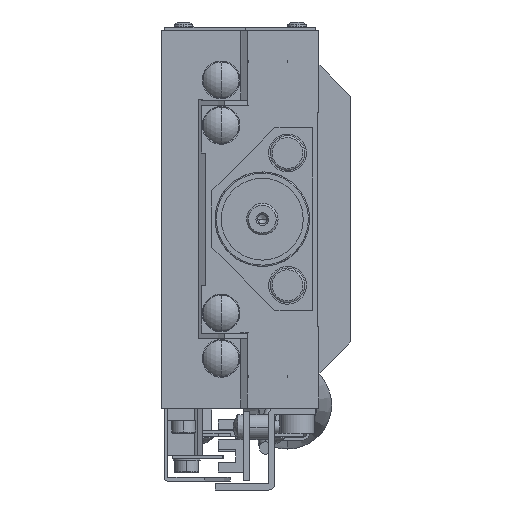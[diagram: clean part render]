
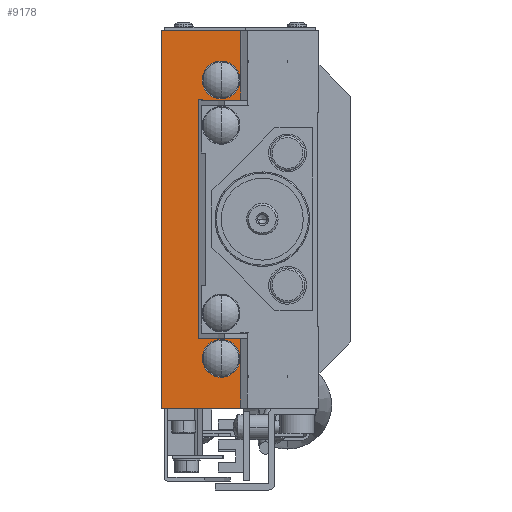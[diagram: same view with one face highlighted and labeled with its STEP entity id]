
A CAD part, left-side view. The second image highlights one B-rep face of the part: STEP entity #9178.
In plain terms, the highlighted planar face has unit normal (-1, 0, 0).
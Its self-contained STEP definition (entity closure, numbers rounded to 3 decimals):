
#76 = VERTEX_POINT ( 'NONE', #12519 ) ;
#261 = VECTOR ( 'NONE', #4032, 1000. ) ;
#302 = AXIS2_PLACEMENT_3D ( 'NONE', #11452, #28834, #16676 ) ;
#377 = ORIENTED_EDGE ( 'NONE', *, *, #28781, .T. ) ;
#394 = CARTESIAN_POINT ( 'NONE',  ( -30., 12.429, 26.5 ) ) ;
#571 = EDGE_CURVE ( 'NONE', #4202, #4052, #18091, .T. ) ;
#742 = EDGE_LOOP ( 'NONE', ( #16324, #25043 ) ) ;
#1033 = ORIENTED_EDGE ( 'NONE', *, *, #31898, .F. ) ;
#1057 = DIRECTION ( 'NONE',  ( 0., 0., 1. ) ) ;
#1475 = CARTESIAN_POINT ( 'NONE',  ( -30., 12.429, -30. ) ) ;
#2388 = CARTESIAN_POINT ( 'NONE',  ( -30., 12.429, 26.5 ) ) ;
#2716 = DIRECTION ( 'NONE',  ( 0., -1., 0. ) ) ;
#2790 = VECTOR ( 'NONE', #20119, 1000. ) ;
#3130 = DIRECTION ( 'NONE',  ( -1., 0., 0. ) ) ;
#3324 = EDGE_CURVE ( 'NONE', #30078, #3907, #25683, .T. ) ;
#3638 = DIRECTION ( 'NONE',  ( 0., 1., 0. ) ) ;
#3726 = VERTEX_POINT ( 'NONE', #22347 ) ;
#3749 = CARTESIAN_POINT ( 'NONE',  ( -30., 0., 30. ) ) ;
#3764 = ORIENTED_EDGE ( 'NONE', *, *, #32159, .T. ) ;
#3907 = VERTEX_POINT ( 'NONE', #25806 ) ;
#4032 = DIRECTION ( 'NONE',  ( 0., 1., 0. ) ) ;
#4052 = VERTEX_POINT ( 'NONE', #5516 ) ;
#4202 = VERTEX_POINT ( 'NONE', #19516 ) ;
#5148 = ORIENTED_EDGE ( 'NONE', *, *, #21318, .F. ) ;
#5230 = VECTOR ( 'NONE', #3638, 1000. ) ;
#5371 = VERTEX_POINT ( 'NONE', #24157 ) ;
#5516 = CARTESIAN_POINT ( 'NONE',  ( -30., 18.65, 18.9 ) ) ;
#5678 = AXIS2_PLACEMENT_3D ( 'NONE', #18229, #3130, #8360 ) ;
#6065 = EDGE_CURVE ( 'NONE', #3907, #30078, #6455, .T. ) ;
#6109 = AXIS2_PLACEMENT_3D ( 'NONE', #25493, #10583, #27576 ) ;
#6389 = VERTEX_POINT ( 'NONE', #11214 ) ;
#6455 = CIRCLE ( 'NONE', #22402, 3. ) ;
#6669 = EDGE_LOOP ( 'NONE', ( #22210, #5148 ) ) ;
#6675 = VECTOR ( 'NONE', #7421, 1000. ) ;
#6895 = CARTESIAN_POINT ( 'NONE',  ( -30., 12.429, -18.9 ) ) ;
#6912 = ORIENTED_EDGE ( 'NONE', *, *, #8883, .T. ) ;
#7080 = CARTESIAN_POINT ( 'NONE',  ( -30., 15.539, 25.1 ) ) ;
#7286 = CARTESIAN_POINT ( 'NONE',  ( -30., 18.65, 26.5 ) ) ;
#7403 = CARTESIAN_POINT ( 'NONE',  ( -30., 12.429, 18.9 ) ) ;
#7421 = DIRECTION ( 'NONE',  ( 0., 0., 1. ) ) ;
#7472 = EDGE_CURVE ( 'NONE', #13368, #10541, #32004, .T. ) ;
#8360 = DIRECTION ( 'NONE',  ( 0., 0., 1. ) ) ;
#8883 = EDGE_CURVE ( 'NONE', #10890, #5371, #23402, .T. ) ;
#8980 = ORIENTED_EDGE ( 'NONE', *, *, #10962, .F. ) ;
#9120 = VERTEX_POINT ( 'NONE', #22608 ) ;
#9178 = ADVANCED_FACE ( 'NONE', ( #20653, #17529, #14028 ), #27616, .F. ) ;
#9317 = EDGE_CURVE ( 'NONE', #76, #4202, #27272, .T. ) ;
#9810 = CARTESIAN_POINT ( 'NONE',  ( -30., 18.65, -26.5 ) ) ;
#10340 = ORIENTED_EDGE ( 'NONE', *, *, #24346, .F. ) ;
#10541 = VERTEX_POINT ( 'NONE', #7080 ) ;
#10583 = DIRECTION ( 'NONE',  ( -1., 0., 0. ) ) ;
#10890 = VERTEX_POINT ( 'NONE', #1475 ) ;
#10962 = EDGE_CURVE ( 'NONE', #3726, #29933, #18185, .T. ) ;
#11212 = CARTESIAN_POINT ( 'NONE',  ( -30., 18.65, -19. ) ) ;
#11214 = CARTESIAN_POINT ( 'NONE',  ( -30., 18.65, -18.9 ) ) ;
#11452 = CARTESIAN_POINT ( 'NONE',  ( -30., 15.539, 22.1 ) ) ;
#11483 = CARTESIAN_POINT ( 'NONE',  ( -30., 25., 30. ) ) ;
#12159 = DIRECTION ( 'NONE',  ( 0., 0., -1. ) ) ;
#12209 = LINE ( 'NONE', #3749, #5230 ) ;
#12328 = CARTESIAN_POINT ( 'NONE',  ( -30., 12.429, 18.9 ) ) ;
#12395 = VECTOR ( 'NONE', #14195, 1000. ) ;
#12519 = CARTESIAN_POINT ( 'NONE',  ( -30., 19.17, 19. ) ) ;
#12801 = DIRECTION ( 'NONE',  ( 0., -1., 0. ) ) ;
#13339 = ORIENTED_EDGE ( 'NONE', *, *, #22844, .T. ) ;
#13368 = VERTEX_POINT ( 'NONE', #16938 ) ;
#13511 = LINE ( 'NONE', #31292, #261 ) ;
#14028 = FACE_BOUND ( 'NONE', #742, .T. ) ;
#14195 = DIRECTION ( 'NONE',  ( 0., 1., 0. ) ) ;
#14563 = ORIENTED_EDGE ( 'NONE', *, *, #571, .T. ) ;
#14828 = CARTESIAN_POINT ( 'NONE',  ( -30., 25., 30. ) ) ;
#15213 = LINE ( 'NONE', #6895, #22596 ) ;
#15803 = VERTEX_POINT ( 'NONE', #12328 ) ;
#16273 = CARTESIAN_POINT ( 'NONE',  ( -30., 19.17, -56.265 ) ) ;
#16324 = ORIENTED_EDGE ( 'NONE', *, *, #6065, .F. ) ;
#16605 = LINE ( 'NONE', #7403, #17794 ) ;
#16676 = DIRECTION ( 'NONE',  ( 0., 0., 1. ) ) ;
#16938 = CARTESIAN_POINT ( 'NONE',  ( -30., 15.539, 19.1 ) ) ;
#16991 = DIRECTION ( 'NONE',  ( 0., 1., 0. ) ) ;
#17518 = DIRECTION ( 'NONE',  ( -1., 0., 0. ) ) ;
#17529 = FACE_BOUND ( 'NONE', #6669, .T. ) ;
#17794 = VECTOR ( 'NONE', #2716, 1000. ) ;
#18091 = LINE ( 'NONE', #7286, #23918 ) ;
#18142 = CARTESIAN_POINT ( 'NONE',  ( -30., 0., 19. ) ) ;
#18171 = CARTESIAN_POINT ( 'NONE',  ( -30., 19.17, -19. ) ) ;
#18185 = LINE ( 'NONE', #11483, #20154 ) ;
#18229 = CARTESIAN_POINT ( 'NONE',  ( -30., 15.539, -22.1 ) ) ;
#18305 = VECTOR ( 'NONE', #12801, 1000. ) ;
#18405 = EDGE_CURVE ( 'NONE', #5371, #6389, #15213, .T. ) ;
#18874 = LINE ( 'NONE', #16273, #20841 ) ;
#19399 = EDGE_CURVE ( 'NONE', #26874, #30041, #29503, .T. ) ;
#19470 = DIRECTION ( 'NONE',  ( 0., 0., 1. ) ) ;
#19516 = CARTESIAN_POINT ( 'NONE',  ( -30., 18.65, 19. ) ) ;
#19674 = DIRECTION ( 'NONE',  ( 0., 0., 1. ) ) ;
#19774 = DIRECTION ( 'NONE',  ( 1., 0., 0. ) ) ;
#20119 = DIRECTION ( 'NONE',  ( 0., 0., 1. ) ) ;
#20154 = VECTOR ( 'NONE', #21373, 1000. ) ;
#20653 = FACE_OUTER_BOUND ( 'NONE', #25256, .T. ) ;
#20841 = VECTOR ( 'NONE', #1057, 1000. ) ;
#21318 = EDGE_CURVE ( 'NONE', #10541, #13368, #22389, .T. ) ;
#21373 = DIRECTION ( 'NONE',  ( 0., 0., 1. ) ) ;
#22089 = CARTESIAN_POINT ( 'NONE',  ( -30., 15.539, -22.1 ) ) ;
#22158 = EDGE_CURVE ( 'NONE', #9120, #15803, #23125, .T. ) ;
#22210 = ORIENTED_EDGE ( 'NONE', *, *, #7472, .F. ) ;
#22347 = CARTESIAN_POINT ( 'NONE',  ( -30., 25., -30. ) ) ;
#22389 = CIRCLE ( 'NONE', #6109, 3. ) ;
#22402 = AXIS2_PLACEMENT_3D ( 'NONE', #22089, #17518, #19470 ) ;
#22596 = VECTOR ( 'NONE', #16991, 1000. ) ;
#22608 = CARTESIAN_POINT ( 'NONE',  ( -30., 12.429, 30. ) ) ;
#22844 = EDGE_CURVE ( 'NONE', #9120, #29933, #12209, .T. ) ;
#23125 = LINE ( 'NONE', #394, #24278 ) ;
#23402 = LINE ( 'NONE', #29681, #6675 ) ;
#23918 = VECTOR ( 'NONE', #12159, 1000. ) ;
#24157 = CARTESIAN_POINT ( 'NONE',  ( -30., 12.429, -18.9 ) ) ;
#24278 = VECTOR ( 'NONE', #27847, 1000. ) ;
#24346 = EDGE_CURVE ( 'NONE', #26874, #6389, #30361, .T. ) ;
#25043 = ORIENTED_EDGE ( 'NONE', *, *, #3324, .F. ) ;
#25256 = EDGE_LOOP ( 'NONE', ( #10340, #32055, #377, #28602, #14563, #3764, #30338, #13339, #8980, #1033, #6912, #26118 ) ) ;
#25493 = CARTESIAN_POINT ( 'NONE',  ( -30., 15.539, 22.1 ) ) ;
#25683 = CIRCLE ( 'NONE', #5678, 3. ) ;
#25806 = CARTESIAN_POINT ( 'NONE',  ( -30., 15.539, -25.1 ) ) ;
#26118 = ORIENTED_EDGE ( 'NONE', *, *, #18405, .T. ) ;
#26874 = VERTEX_POINT ( 'NONE', #11212 ) ;
#27063 = AXIS2_PLACEMENT_3D ( 'NONE', #2388, #19774, #19674 ) ;
#27272 = LINE ( 'NONE', #18142, #18305 ) ;
#27576 = DIRECTION ( 'NONE',  ( 0., 0., 1. ) ) ;
#27616 = PLANE ( 'NONE',  #27063 ) ;
#27765 = CARTESIAN_POINT ( 'NONE',  ( -30., 15.539, -19.1 ) ) ;
#27847 = DIRECTION ( 'NONE',  ( 0., 0., -1. ) ) ;
#28602 = ORIENTED_EDGE ( 'NONE', *, *, #9317, .T. ) ;
#28781 = EDGE_CURVE ( 'NONE', #30041, #76, #18874, .T. ) ;
#28834 = DIRECTION ( 'NONE',  ( -1., 0., 0. ) ) ;
#29503 = LINE ( 'NONE', #31451, #12395 ) ;
#29681 = CARTESIAN_POINT ( 'NONE',  ( -30., 12.429, -56.265 ) ) ;
#29933 = VERTEX_POINT ( 'NONE', #14828 ) ;
#30041 = VERTEX_POINT ( 'NONE', #18171 ) ;
#30078 = VERTEX_POINT ( 'NONE', #27765 ) ;
#30338 = ORIENTED_EDGE ( 'NONE', *, *, #22158, .F. ) ;
#30361 = LINE ( 'NONE', #9810, #2790 ) ;
#31292 = CARTESIAN_POINT ( 'NONE',  ( -30., 0., -30. ) ) ;
#31451 = CARTESIAN_POINT ( 'NONE',  ( -30., 0., -19. ) ) ;
#31898 = EDGE_CURVE ( 'NONE', #10890, #3726, #13511, .T. ) ;
#32004 = CIRCLE ( 'NONE', #302, 3. ) ;
#32055 = ORIENTED_EDGE ( 'NONE', *, *, #19399, .T. ) ;
#32159 = EDGE_CURVE ( 'NONE', #4052, #15803, #16605, .T. ) ;
